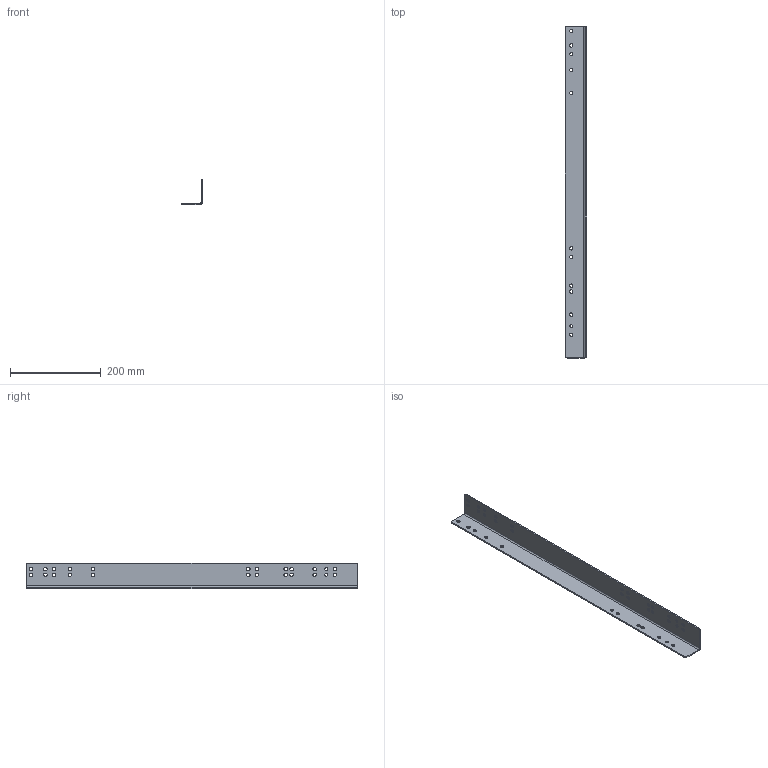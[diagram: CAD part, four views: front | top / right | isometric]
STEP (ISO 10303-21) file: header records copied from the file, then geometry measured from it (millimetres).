
FILE_DESCRIPTION(/* description */ (''),/* implementation_level */ '2;1');
FILE_NAME(/* name */ 'C:\Users\MelKon\Desktop\Neuer Ordner\WI-IN_2257619-730_rechts.stp',/* time_stamp */ '2017-10-24T13:49:57+02:00',/* author */ ('MelKon'),/* organization */ (''),/* preprocessor_version */ 'ST-DEVELOPER v15.6',/* originating_system */ 'Autodesk Inventor 2015',/* authorisation */ '');
FILE_SCHEMA (('AUTOMOTIVE_DESIGN { 1 0 10303 214 3 1 1 }'));
Length unit declared in the file: millimetre
Products named in the file (1): WI-IN_2257619-730_rechts
Bounding box: 46.2 x 730 x 55.9 mm (x, y, z)
Volume: 209993.1 mm3; surface area: 146595.3 mm2
Topology: 1 solids, 1 shells, 149 faces, 441 edges, 294 vertices
Faces by surface type: cylinder 75, plane 74
Full cylindrical faces by diameter (mm): 6.4 x3
Entity records: 5178 total; most frequent: DIRECTION 888, CARTESIAN_POINT 882, ORIENTED_EDGE 876, EDGE_CURVE 438, AXIS2_PLACEMENT_3D 300, VERTEX_POINT 294, LINE 288, VECTOR 288
